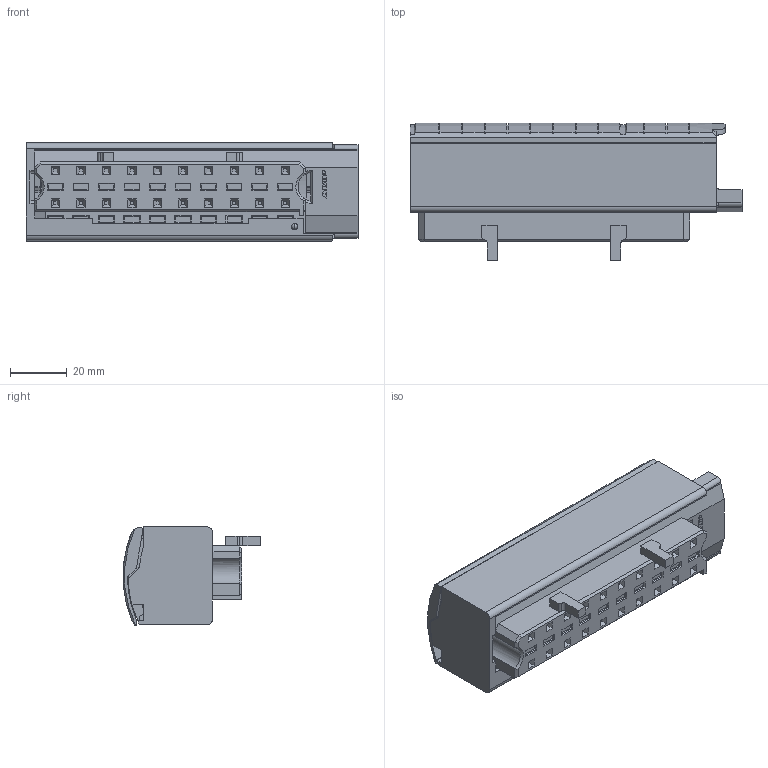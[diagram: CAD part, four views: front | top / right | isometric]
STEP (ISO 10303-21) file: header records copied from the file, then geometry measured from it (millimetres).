
FILE_DESCRIPTION((''),'2;1');
FILE_NAME('10002994990_ASM','2018-08-31T08:43:46',('wbf'),('Rockwell Automation'),'CREO PARAMETRIC BY PTC INC, 2017380','CREO PARAMETRIC BY PTC INC, 2017380','');
FILE_SCHEMA(('CONFIG_CONTROL_DESIGN'));
Length unit declared in the file: millimetre
Products named in the file (5): 10002994989; 10002994985; 10002994984; 10002994986_ASM; 10002994990_ASM
Assembly tree (4 placements, depth 3):
  10002994990_ASM
    10002994989
    10002994986_ASM
      10002994985
      10002994984
Bounding box: 117 x 48.43 x 34.66 mm (x, y, z)
Volume: 65730 mm3; surface area: 45244.6 mm2
Topology: 3 solids, 3 shells, 1162 faces, 2956 edges, 1901 vertices
Faces by surface type: plane 1011, cylinder 137, cone 9, sphere 2, extrusion 2, torus 1
Entity records: 34574 total; most frequent: CARTESIAN_POINT 6216, ORIENTED_EDGE 5906, DIRECTION 5571, EDGE_CURVE 2953, VECTOR 2613, LINE 2611, VERTEX_POINT 1899, AXIS2_PLACEMENT_3D 1479
